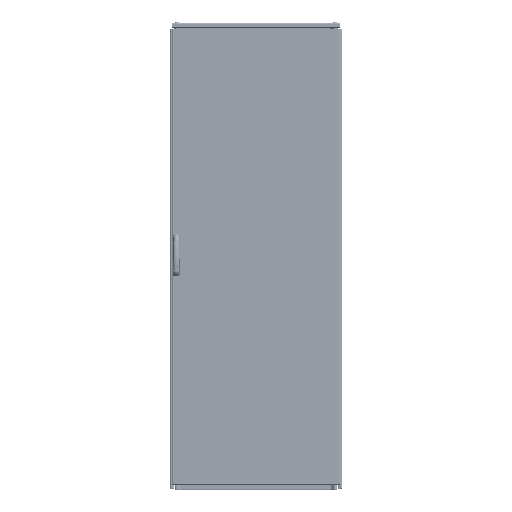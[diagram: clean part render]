
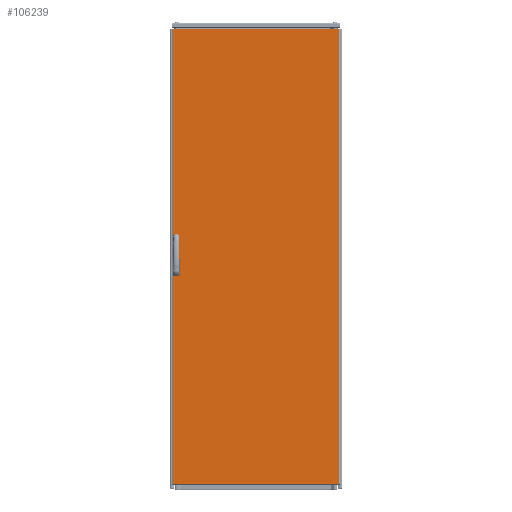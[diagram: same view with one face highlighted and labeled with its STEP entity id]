
A CAD part, top view. The second image highlights one B-rep face of the part: STEP entity #106239.
In plain terms, the highlighted planar face has unit normal (0, 0, 1).
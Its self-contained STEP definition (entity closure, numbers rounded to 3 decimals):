
#7797 = EDGE_CURVE ( 'NONE', #314524, #97424, #21856, .T. ) ;
#8276 = CARTESIAN_POINT ( 'NONE',  ( 9.7, 1047.75, 19. ) ) ;
#9182 = CARTESIAN_POINT ( 'NONE',  ( 28.7, 1112.25, 19. ) ) ;
#11545 = VECTOR ( 'NONE', #297042, 1000. ) ;
#12069 = CARTESIAN_POINT ( 'NONE',  ( 3., 2157., 19. ) ) ;
#13945 = DIRECTION ( 'NONE',  ( 0., 0., 1. ) ) ;
#19639 = ORIENTED_EDGE ( 'NONE', *, *, #103014, .F. ) ;
#20180 = VERTEX_POINT ( 'NONE', #271462 ) ;
#21373 = DIRECTION ( 'NONE',  ( 1., 0., 0. ) ) ;
#21856 = LINE ( 'NONE', #115036, #356821 ) ;
#28938 = ORIENTED_EDGE ( 'NONE', *, *, #7797, .T. ) ;
#29413 = EDGE_CURVE ( 'NONE', #293436, #50884, #133950, .T. ) ;
#44604 = CARTESIAN_POINT ( 'NONE',  ( 0., 2157., 19. ) ) ;
#47140 = ORIENTED_EDGE ( 'NONE', *, *, #93606, .F. ) ;
#50884 = VERTEX_POINT ( 'NONE', #325341 ) ;
#51527 = DIRECTION ( 'NONE',  ( 0., -1., 0. ) ) ;
#52282 = VERTEX_POINT ( 'NONE', #12069 ) ;
#54373 = VECTOR ( 'NONE', #77739, 1000. ) ;
#66257 = LINE ( 'NONE', #387597, #54373 ) ;
#66329 = EDGE_CURVE ( 'NONE', #97424, #284896, #232250, .T. ) ;
#77739 = DIRECTION ( 'NONE',  ( 0., 1., 0. ) ) ;
#78599 = VERTEX_POINT ( 'NONE', #170590 ) ;
#84897 = DIRECTION ( 'NONE',  ( 0., 0., 1. ) ) ;
#86495 = CIRCLE ( 'NONE', #325837, 9.5 ) ;
#88175 = CIRCLE ( 'NONE', #185060, 9.5 ) ;
#92114 = AXIS2_PLACEMENT_3D ( 'NONE', #394029, #238109, #21373 ) ;
#92759 = DIRECTION ( 'NONE',  ( 0., 1., 0. ) ) ;
#92941 = EDGE_CURVE ( 'NONE', #156446, #78599, #339831, .T. ) ;
#93606 = EDGE_CURVE ( 'NONE', #50884, #156446, #88175, .T. ) ;
#97424 = VERTEX_POINT ( 'NONE', #373394 ) ;
#103014 = EDGE_CURVE ( 'NONE', #169128, #257889, #86495, .T. ) ;
#106239 = ADVANCED_FACE ( 'NONE', ( #133039, #135054, #258661 ), #319347, .F. ) ;
#109279 = EDGE_CURVE ( 'NONE', #257889, #391355, #110329, .T. ) ;
#110329 = LINE ( 'NONE', #114305, #391786 ) ;
#112712 = EDGE_LOOP ( 'NONE', ( #183699, #135254, #260879, #28938 ) ) ;
#114305 = CARTESIAN_POINT ( 'NONE',  ( 9.7, 1047.75, 19. ) ) ;
#114990 = DIRECTION ( 'NONE',  ( 0., 0., 1. ) ) ;
#115036 = CARTESIAN_POINT ( 'NONE',  ( 0., 3., 19. ) ) ;
#120509 = EDGE_CURVE ( 'NONE', #20180, #169128, #66257, .T. ) ;
#128020 = ORIENTED_EDGE ( 'NONE', *, *, #189780, .F. ) ;
#129837 = VECTOR ( 'NONE', #238988, 1000. ) ;
#133039 = FACE_BOUND ( 'NONE', #314283, .T. ) ;
#133950 = LINE ( 'NONE', #318268, #297170 ) ;
#135054 = FACE_BOUND ( 'NONE', #374690, .T. ) ;
#135254 = ORIENTED_EDGE ( 'NONE', *, *, #312086, .T. ) ;
#135356 = EDGE_CURVE ( 'NONE', #78599, #293436, #337855, .T. ) ;
#147171 = ORIENTED_EDGE ( 'NONE', *, *, #120509, .F. ) ;
#156446 = VERTEX_POINT ( 'NONE', #9182 ) ;
#169128 = VERTEX_POINT ( 'NONE', #260044 ) ;
#169470 = DIRECTION ( 'NONE',  ( 0., 0., -1. ) ) ;
#170590 = CARTESIAN_POINT ( 'NONE',  ( 28.7, 1160.25, 19. ) ) ;
#172223 = LINE ( 'NONE', #44604, #129837 ) ;
#173504 = CARTESIAN_POINT ( 'NONE',  ( 792., 2160., 19. ) ) ;
#180108 = CARTESIAN_POINT ( 'NONE',  ( 19.2, 1112.25, 19. ) ) ;
#180555 = CIRCLE ( 'NONE', #355120, 9.5 ) ;
#182118 = DIRECTION ( 'NONE',  ( 1., 0., 0. ) ) ;
#183699 = ORIENTED_EDGE ( 'NONE', *, *, #66329, .T. ) ;
#185060 = AXIS2_PLACEMENT_3D ( 'NONE', #180108, #84897, #182118 ) ;
#189140 = DIRECTION ( 'NONE',  ( 0., -1., 0. ) ) ;
#189780 = EDGE_CURVE ( 'NONE', #391355, #20180, #180555, .T. ) ;
#194068 = VECTOR ( 'NONE', #189140, 1000. ) ;
#215489 = CARTESIAN_POINT ( 'NONE',  ( 3., 2160., 19. ) ) ;
#231334 = ORIENTED_EDGE ( 'NONE', *, *, #109279, .F. ) ;
#232250 = LINE ( 'NONE', #173504, #11545 ) ;
#238109 = DIRECTION ( 'NONE',  ( 0., 0., 1. ) ) ;
#238988 = DIRECTION ( 'NONE',  ( -1., 0., 0. ) ) ;
#242086 = CARTESIAN_POINT ( 'NONE',  ( 3., 3., 19. ) ) ;
#243771 = AXIS2_PLACEMENT_3D ( 'NONE', #351711, #169470, #376133 ) ;
#257541 = DIRECTION ( 'NONE',  ( 0., -1., 0. ) ) ;
#257889 = VERTEX_POINT ( 'NONE', #8276 ) ;
#258661 = FACE_OUTER_BOUND ( 'NONE', #112712, .T. ) ;
#260044 = CARTESIAN_POINT ( 'NONE',  ( 28.7, 1047.75, 19. ) ) ;
#260133 = CARTESIAN_POINT ( 'NONE',  ( 9.7, 1160.25, 19. ) ) ;
#260879 = ORIENTED_EDGE ( 'NONE', *, *, #311419, .T. ) ;
#269029 = DIRECTION ( 'NONE',  ( 1., 0., 0. ) ) ;
#271462 = CARTESIAN_POINT ( 'NONE',  ( 28.7, 999.75, 19. ) ) ;
#271719 = CARTESIAN_POINT ( 'NONE',  ( 28.7, 1160.25, 19. ) ) ;
#273331 = ORIENTED_EDGE ( 'NONE', *, *, #29413, .F. ) ;
#278190 = ORIENTED_EDGE ( 'NONE', *, *, #135356, .F. ) ;
#280286 = LINE ( 'NONE', #215489, #194068 ) ;
#284896 = VERTEX_POINT ( 'NONE', #295243 ) ;
#291465 = CARTESIAN_POINT ( 'NONE',  ( 19.2, 999.75, 19. ) ) ;
#293436 = VERTEX_POINT ( 'NONE', #260133 ) ;
#295243 = CARTESIAN_POINT ( 'NONE',  ( 792., 2157., 19. ) ) ;
#297042 = DIRECTION ( 'NONE',  ( 0., 1., 0. ) ) ;
#297170 = VECTOR ( 'NONE', #257541, 1000. ) ;
#301709 = CARTESIAN_POINT ( 'NONE',  ( 9.7, 999.75, 19. ) ) ;
#311419 = EDGE_CURVE ( 'NONE', #52282, #314524, #280286, .T. ) ;
#312086 = EDGE_CURVE ( 'NONE', #284896, #52282, #172223, .T. ) ;
#314283 = EDGE_LOOP ( 'NONE', ( #231334, #19639, #147171, #128020 ) ) ;
#314524 = VERTEX_POINT ( 'NONE', #242086 ) ;
#318268 = CARTESIAN_POINT ( 'NONE',  ( 9.7, 1160.25, 19. ) ) ;
#319347 = PLANE ( 'NONE',  #243771 ) ;
#325341 = CARTESIAN_POINT ( 'NONE',  ( 9.7, 1112.25, 19. ) ) ;
#325837 = AXIS2_PLACEMENT_3D ( 'NONE', #392471, #114990, #331682 ) ;
#331682 = DIRECTION ( 'NONE',  ( 1., 0., 0. ) ) ;
#337855 = CIRCLE ( 'NONE', #92114, 9.5 ) ;
#339831 = LINE ( 'NONE', #271719, #385370 ) ;
#346183 = DIRECTION ( 'NONE',  ( 1., 0., 0. ) ) ;
#351711 = CARTESIAN_POINT ( 'NONE',  ( 0., 2160., 19. ) ) ;
#352001 = ORIENTED_EDGE ( 'NONE', *, *, #92941, .F. ) ;
#355120 = AXIS2_PLACEMENT_3D ( 'NONE', #291465, #13945, #346183 ) ;
#356821 = VECTOR ( 'NONE', #269029, 1000. ) ;
#373394 = CARTESIAN_POINT ( 'NONE',  ( 792., 3., 19. ) ) ;
#374690 = EDGE_LOOP ( 'NONE', ( #273331, #278190, #352001, #47140 ) ) ;
#376133 = DIRECTION ( 'NONE',  ( -1., 0., 0. ) ) ;
#385370 = VECTOR ( 'NONE', #92759, 1000. ) ;
#387597 = CARTESIAN_POINT ( 'NONE',  ( 28.7, 1047.75, 19. ) ) ;
#391355 = VERTEX_POINT ( 'NONE', #301709 ) ;
#391786 = VECTOR ( 'NONE', #51527, 1000. ) ;
#392471 = CARTESIAN_POINT ( 'NONE',  ( 19.2, 1047.75, 19. ) ) ;
#394029 = CARTESIAN_POINT ( 'NONE',  ( 19.2, 1160.25, 19. ) ) ;
